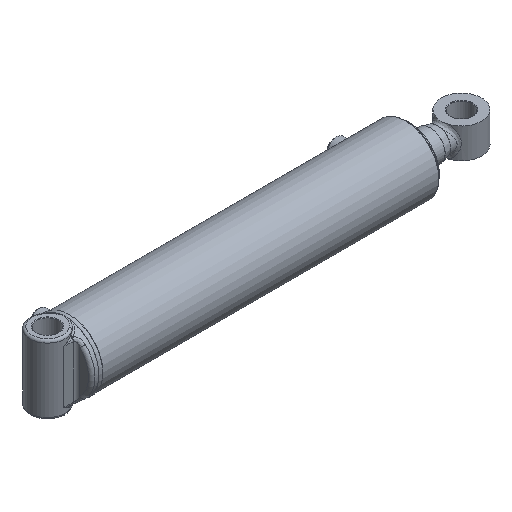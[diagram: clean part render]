
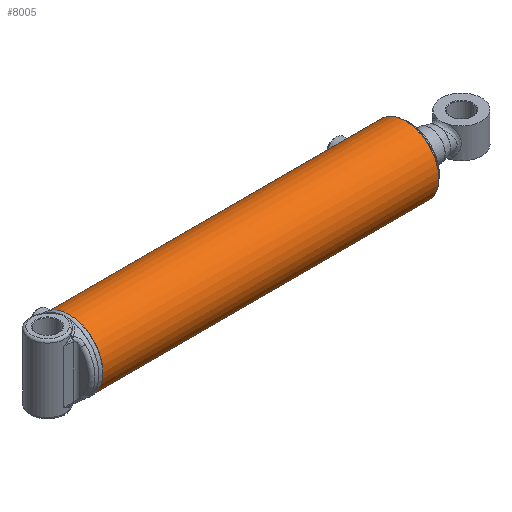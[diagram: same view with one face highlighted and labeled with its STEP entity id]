
A CAD part, isometric view. The second image highlights one B-rep face of the part: STEP entity #8005.
In plain terms, the highlighted cylindrical face has radius 49.212 mm (diameter 98.425 mm), a full revolution.
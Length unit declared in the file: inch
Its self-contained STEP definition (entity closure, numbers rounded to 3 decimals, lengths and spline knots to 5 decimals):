
#743=B_SPLINE_CURVE_WITH_KNOTS('',3,(#11893,#11894,#11895,#11896,#11897,
#11898,#11899,#11900,#11901,#11902),.UNSPECIFIED.,.F.,.F.,(4,2,2,2,4),(0.,
0.17952,0.35904,0.53855,0.71807),
 .UNSPECIFIED.);
#744=B_SPLINE_CURVE_WITH_KNOTS('',3,(#11903,#11904,#11905,#11906,#11907,
#11908,#11909,#11910,#11911,#11912,#11913,#11914,#11915,#11916,#11917,#11918,
#11919,#11920,#11921,#11922,#11923,#11924,#11925,#11926,#11927,#11928),
 .UNSPECIFIED.,.F.,.F.,(4,2,2,2,2,2,2,2,2,2,2,2,4),(0.71807,0.89759,
1.07711,1.25662,1.43614,1.61566,1.79518,
1.97469,2.15421,2.33373,2.51325,2.69276,
2.87228),.UNSPECIFIED.);
#745=B_SPLINE_CURVE_WITH_KNOTS('',3,(#11933,#11934,#11935,#11936,#11937,
#11938,#11939,#11940,#11941,#11942),.UNSPECIFIED.,.F.,.F.,(4,2,2,2,4),(0.,
0.17952,0.35904,0.53855,0.71807),
 .UNSPECIFIED.);
#746=B_SPLINE_CURVE_WITH_KNOTS('',3,(#11943,#11944,#11945,#11946,#11947,
#11948,#11949,#11950,#11951,#11952,#11953,#11954,#11955,#11956,#11957,#11958,
#11959,#11960,#11961,#11962,#11963,#11964,#11965,#11966,#11967,#11968),
 .UNSPECIFIED.,.F.,.F.,(4,2,2,2,2,2,2,2,2,2,2,2,4),(0.71807,0.89759,
1.07711,1.25662,1.43614,1.61566,1.79518,
1.97469,2.15421,2.33373,2.51325,2.69276,
2.87228),.UNSPECIFIED.);
#1052=FACE_BOUND('',#2574,.T.);
#1053=FACE_BOUND('',#2575,.T.);
#1334=LINE('',#11996,#1660);
#1660=VECTOR('',#9730,1.9375);
#1983=CYLINDRICAL_SURFACE('',#8759,1.9375);
#2077=FACE_OUTER_BOUND('',#2573,.T.);
#2573=EDGE_LOOP('',(#5643,#5644,#5645,#5646,#5647,#5648));
#2574=EDGE_LOOP('',(#5649,#5650));
#2575=EDGE_LOOP('',(#5651,#5652));
#3155=CIRCLE('',#8756,1.9375);
#3157=CIRCLE('',#8758,1.9375);
#3158=CIRCLE('',#8760,1.9375);
#3159=CIRCLE('',#8761,1.9375);
#3637=VERTEX_POINT('',#11890);
#3638=VERTEX_POINT('',#11892);
#3639=VERTEX_POINT('',#11930);
#3640=VERTEX_POINT('',#11932);
#3647=VERTEX_POINT('',#11989);
#3648=VERTEX_POINT('',#11990);
#3649=VERTEX_POINT('',#11995);
#3650=VERTEX_POINT('',#11997);
#4409=EDGE_CURVE('',#3638,#3637,#743,.T.);
#4410=EDGE_CURVE('',#3637,#3638,#744,.T.);
#4412=EDGE_CURVE('',#3640,#3639,#745,.T.);
#4413=EDGE_CURVE('',#3639,#3640,#746,.T.);
#4423=EDGE_CURVE('',#3647,#3648,#3155,.T.);
#4425=EDGE_CURVE('',#3648,#3647,#3157,.T.);
#4426=EDGE_CURVE('',#3647,#3649,#1334,.T.);
#4427=EDGE_CURVE('',#3650,#3649,#3158,.T.);
#4428=EDGE_CURVE('',#3649,#3650,#3159,.T.);
#5643=ORIENTED_EDGE('',*,*,#4423,.F.);
#5644=ORIENTED_EDGE('',*,*,#4426,.T.);
#5645=ORIENTED_EDGE('',*,*,#4427,.F.);
#5646=ORIENTED_EDGE('',*,*,#4428,.F.);
#5647=ORIENTED_EDGE('',*,*,#4426,.F.);
#5648=ORIENTED_EDGE('',*,*,#4425,.F.);
#5649=ORIENTED_EDGE('',*,*,#4409,.T.);
#5650=ORIENTED_EDGE('',*,*,#4410,.T.);
#5651=ORIENTED_EDGE('',*,*,#4412,.T.);
#5652=ORIENTED_EDGE('',*,*,#4413,.T.);
#8005=ADVANCED_FACE('',(#2077,#1052,#1053),#1983,.T.);
#8756=AXIS2_PLACEMENT_3D('',#11991,#9722,#9723);
#8758=AXIS2_PLACEMENT_3D('',#11993,#9726,#9727);
#8759=AXIS2_PLACEMENT_3D('',#11994,#9728,#9729);
#8760=AXIS2_PLACEMENT_3D('',#11998,#9731,#9732);
#8761=AXIS2_PLACEMENT_3D('',#11999,#9733,#9734);
#9722=DIRECTION('center_axis',(1.,0.,0.));
#9723=DIRECTION('ref_axis',(0.,-1.,0.));
#9726=DIRECTION('center_axis',(1.,0.,0.));
#9727=DIRECTION('ref_axis',(0.,-1.,0.));
#9728=DIRECTION('center_axis',(1.,0.,0.));
#9729=DIRECTION('ref_axis',(0.,-1.,0.));
#9730=DIRECTION('',(-1.,0.,0.));
#9731=DIRECTION('center_axis',(-1.,0.,0.));
#9732=DIRECTION('ref_axis',(0.,-1.,0.));
#9733=DIRECTION('center_axis',(-1.,0.,0.));
#9734=DIRECTION('ref_axis',(0.,-1.,0.));
#11890=CARTESIAN_POINT('',(0.7225,0.,1.9375));
#11892=CARTESIAN_POINT('',(0.91,-0.1875,1.92841));
#11893=CARTESIAN_POINT('Ctrl Pts',(0.91,-0.1875,1.92841));
#11894=CARTESIAN_POINT('Ctrl Pts',(0.88644,-0.1875,1.92841));
#11895=CARTESIAN_POINT('Ctrl Pts',(0.86132,-0.18279,
1.92888));
#11896=CARTESIAN_POINT('Ctrl Pts',(0.81513,-0.16365,
1.9306));
#11897=CARTESIAN_POINT('Ctrl Pts',(0.79406,-0.14922,
1.93182));
#11898=CARTESIAN_POINT('Ctrl Pts',(0.76078,-0.11594,
1.9341));
#11899=CARTESIAN_POINT('Ctrl Pts',(0.74635,-0.09487,
1.93531));
#11900=CARTESIAN_POINT('Ctrl Pts',(0.72721,-0.04868,
1.93703));
#11901=CARTESIAN_POINT('Ctrl Pts',(0.7225,-0.02356,1.9375));
#11902=CARTESIAN_POINT('Ctrl Pts',(0.7225,0.,1.9375));
#11903=CARTESIAN_POINT('Ctrl Pts',(0.7225,0.,1.9375));
#11904=CARTESIAN_POINT('Ctrl Pts',(0.7225,0.02356,1.9375));
#11905=CARTESIAN_POINT('Ctrl Pts',(0.72721,0.04868,
1.93703));
#11906=CARTESIAN_POINT('Ctrl Pts',(0.74635,0.09487,
1.93531));
#11907=CARTESIAN_POINT('Ctrl Pts',(0.76078,0.11594,
1.9341));
#11908=CARTESIAN_POINT('Ctrl Pts',(0.79406,0.14922,
1.93182));
#11909=CARTESIAN_POINT('Ctrl Pts',(0.81513,0.16365,
1.9306));
#11910=CARTESIAN_POINT('Ctrl Pts',(0.86132,0.18279,
1.92888));
#11911=CARTESIAN_POINT('Ctrl Pts',(0.88644,0.1875,1.92841));
#11912=CARTESIAN_POINT('Ctrl Pts',(0.93356,0.1875,1.92841));
#11913=CARTESIAN_POINT('Ctrl Pts',(0.95868,0.18279,
1.92888));
#11914=CARTESIAN_POINT('Ctrl Pts',(1.00487,0.16365,1.9306));
#11915=CARTESIAN_POINT('Ctrl Pts',(1.02594,0.14922,1.93182));
#11916=CARTESIAN_POINT('Ctrl Pts',(1.05922,0.11594,1.9341));
#11917=CARTESIAN_POINT('Ctrl Pts',(1.07365,0.09487,
1.93531));
#11918=CARTESIAN_POINT('Ctrl Pts',(1.09279,0.04868,
1.93703));
#11919=CARTESIAN_POINT('Ctrl Pts',(1.0975,0.02356,1.9375));
#11920=CARTESIAN_POINT('Ctrl Pts',(1.0975,-0.02356,1.9375));
#11921=CARTESIAN_POINT('Ctrl Pts',(1.09279,-0.04868,
1.93703));
#11922=CARTESIAN_POINT('Ctrl Pts',(1.07365,-0.09487,
1.93531));
#11923=CARTESIAN_POINT('Ctrl Pts',(1.05922,-0.11594,
1.9341));
#11924=CARTESIAN_POINT('Ctrl Pts',(1.02594,-0.14922,
1.93182));
#11925=CARTESIAN_POINT('Ctrl Pts',(1.00487,-0.16365,
1.9306));
#11926=CARTESIAN_POINT('Ctrl Pts',(0.95868,-0.18279,
1.92888));
#11927=CARTESIAN_POINT('Ctrl Pts',(0.93356,-0.1875,1.92841));
#11928=CARTESIAN_POINT('Ctrl Pts',(0.91,-0.1875,1.92841));
#11930=CARTESIAN_POINT('',(17.9425,0.,1.9375));
#11932=CARTESIAN_POINT('',(18.13,-0.1875,1.92841));
#11933=CARTESIAN_POINT('Ctrl Pts',(18.13,-0.1875,1.92841));
#11934=CARTESIAN_POINT('Ctrl Pts',(18.10644,-0.1875,
1.92841));
#11935=CARTESIAN_POINT('Ctrl Pts',(18.08132,-0.18279,
1.92888));
#11936=CARTESIAN_POINT('Ctrl Pts',(18.03513,-0.16365,
1.9306));
#11937=CARTESIAN_POINT('Ctrl Pts',(18.01406,-0.14922,1.93182));
#11938=CARTESIAN_POINT('Ctrl Pts',(17.98078,-0.11594,1.9341));
#11939=CARTESIAN_POINT('Ctrl Pts',(17.96635,-0.09487,
1.93531));
#11940=CARTESIAN_POINT('Ctrl Pts',(17.94721,-0.04868,
1.93703));
#11941=CARTESIAN_POINT('Ctrl Pts',(17.9425,-0.02356,1.9375));
#11942=CARTESIAN_POINT('Ctrl Pts',(17.9425,0.,1.9375));
#11943=CARTESIAN_POINT('Ctrl Pts',(17.9425,0.,1.9375));
#11944=CARTESIAN_POINT('Ctrl Pts',(17.9425,0.02356,1.9375));
#11945=CARTESIAN_POINT('Ctrl Pts',(17.94721,0.04868,
1.93703));
#11946=CARTESIAN_POINT('Ctrl Pts',(17.96635,0.09487,
1.93531));
#11947=CARTESIAN_POINT('Ctrl Pts',(17.98078,0.11594,1.9341));
#11948=CARTESIAN_POINT('Ctrl Pts',(18.01406,0.14922,1.93182));
#11949=CARTESIAN_POINT('Ctrl Pts',(18.03513,0.16365,1.9306));
#11950=CARTESIAN_POINT('Ctrl Pts',(18.08132,0.18279,1.92888));
#11951=CARTESIAN_POINT('Ctrl Pts',(18.10644,0.1875,1.92841));
#11952=CARTESIAN_POINT('Ctrl Pts',(18.15356,0.1875,1.92841));
#11953=CARTESIAN_POINT('Ctrl Pts',(18.17868,0.18279,1.92888));
#11954=CARTESIAN_POINT('Ctrl Pts',(18.22487,0.16365,1.9306));
#11955=CARTESIAN_POINT('Ctrl Pts',(18.24594,0.14922,1.93182));
#11956=CARTESIAN_POINT('Ctrl Pts',(18.27922,0.11594,1.9341));
#11957=CARTESIAN_POINT('Ctrl Pts',(18.29365,0.09487,
1.93531));
#11958=CARTESIAN_POINT('Ctrl Pts',(18.31279,0.04868,1.93703));
#11959=CARTESIAN_POINT('Ctrl Pts',(18.3175,0.02356,1.9375));
#11960=CARTESIAN_POINT('Ctrl Pts',(18.3175,-0.02356,1.9375));
#11961=CARTESIAN_POINT('Ctrl Pts',(18.31279,-0.04868,
1.93703));
#11962=CARTESIAN_POINT('Ctrl Pts',(18.29365,-0.09487,
1.93531));
#11963=CARTESIAN_POINT('Ctrl Pts',(18.27922,-0.11594,1.9341));
#11964=CARTESIAN_POINT('Ctrl Pts',(18.24594,-0.14922,1.93182));
#11965=CARTESIAN_POINT('Ctrl Pts',(18.22487,-0.16365,
1.9306));
#11966=CARTESIAN_POINT('Ctrl Pts',(18.17868,-0.18279,
1.92888));
#11967=CARTESIAN_POINT('Ctrl Pts',(18.15356,-0.1875,
1.92841));
#11968=CARTESIAN_POINT('Ctrl Pts',(18.13,-0.1875,1.92841));
#11989=CARTESIAN_POINT('',(19.56,1.9375,0.));
#11990=CARTESIAN_POINT('',(19.56,0.,-1.9375));
#11991=CARTESIAN_POINT('Origin',(19.56,0.,0.));
#11993=CARTESIAN_POINT('Origin',(19.56,0.,0.));
#11994=CARTESIAN_POINT('Origin',(0.,0.,0.));
#11995=CARTESIAN_POINT('',(0.09382,1.9375,0.));
#11996=CARTESIAN_POINT('',(0.,1.9375,0.));
#11997=CARTESIAN_POINT('',(0.09382,0.,1.9375));
#11998=CARTESIAN_POINT('Origin',(0.09382,0.,0.));
#11999=CARTESIAN_POINT('Origin',(0.09382,0.,0.));
